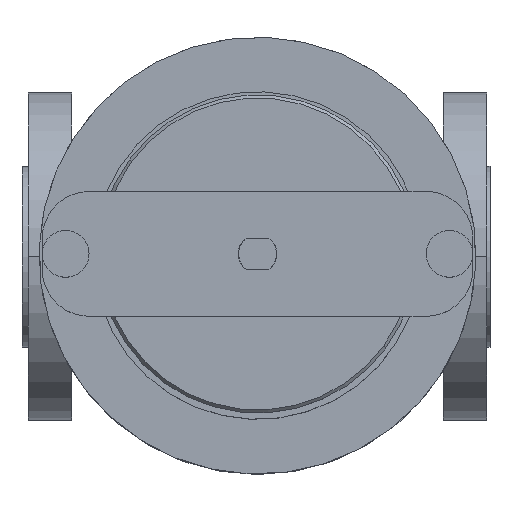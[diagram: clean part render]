
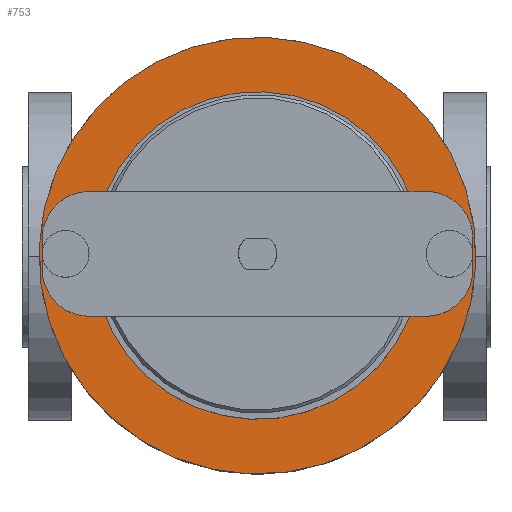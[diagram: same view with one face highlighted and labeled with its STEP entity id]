
A CAD part, top view. The second image highlights one B-rep face of the part: STEP entity #753.
In plain terms, the highlighted planar face has unit normal (0, 0, 1).
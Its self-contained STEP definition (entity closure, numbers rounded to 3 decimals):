
#29 = CIRCLE ( 'NONE', #7971, 7.5 ) ;
#59 = DIRECTION ( 'NONE',  ( 0., 0., -1. ) ) ;
#202 = AXIS2_PLACEMENT_3D ( 'NONE', #2127, #1296, #7878 ) ;
#411 = DIRECTION ( 'NONE',  ( 0., 0., -1. ) ) ;
#456 = ORIENTED_EDGE ( 'NONE', *, *, #4206, .F. ) ;
#753 = ADVANCED_FACE ( 'NONE', ( #9051, #7398, #4041, #5035 ), #3166, .F. ) ;
#764 = VERTEX_POINT ( 'NONE', #7560 ) ;
#1160 = DIRECTION ( 'NONE',  ( 0., 0., 1. ) ) ;
#1296 = DIRECTION ( 'NONE',  ( 0., 0., 1. ) ) ;
#1354 = CARTESIAN_POINT ( 'NONE',  ( 18.328, 11.593, 146.08 ) ) ;
#1477 = CIRCLE ( 'NONE', #2006, 7.5 ) ;
#1832 = DIRECTION ( 'NONE',  ( 0., 0., -1. ) ) ;
#2006 = AXIS2_PLACEMENT_3D ( 'NONE', #10112, #1832, #6141 ) ;
#2010 = AXIS2_PLACEMENT_3D ( 'NONE', #2560, #59, #6038 ) ;
#2029 = DIRECTION ( 'NONE',  ( 0., 0., 1. ) ) ;
#2127 = CARTESIAN_POINT ( 'NONE',  ( 18.328, 11.593, 146.08 ) ) ;
#2432 = EDGE_LOOP ( 'NONE', ( #7368, #456 ) ) ;
#2538 = ORIENTED_EDGE ( 'NONE', *, *, #7974, .F. ) ;
#2560 = CARTESIAN_POINT ( 'NONE',  ( 18.328, 11.593, 146.08 ) ) ;
#2659 = EDGE_LOOP ( 'NONE', ( #7259, #2936 ) ) ;
#2936 = ORIENTED_EDGE ( 'NONE', *, *, #9110, .T. ) ;
#2999 = ORIENTED_EDGE ( 'NONE', *, *, #8052, .F. ) ;
#3166 = PLANE ( 'NONE',  #5189 ) ;
#3181 = EDGE_CURVE ( 'NONE', #8870, #3436, #10230, .T. ) ;
#3436 = VERTEX_POINT ( 'NONE', #8982 ) ;
#3533 = AXIS2_PLACEMENT_3D ( 'NONE', #3601, #1160, #7850 ) ;
#3601 = CARTESIAN_POINT ( 'NONE',  ( -43.172, 11.593, 146.08 ) ) ;
#3967 = CIRCLE ( 'NONE', #5716, 7.5 ) ;
#4041 = FACE_BOUND ( 'NONE', #10674, .T. ) ;
#4122 = VERTEX_POINT ( 'NONE', #6853 ) ;
#4171 = DIRECTION ( 'NONE',  ( 0., 0., 1. ) ) ;
#4206 = EDGE_CURVE ( 'NONE', #764, #8852, #5293, .T. ) ;
#4447 = ORIENTED_EDGE ( 'NONE', *, *, #3181, .F. ) ;
#4568 = DIRECTION ( 'NONE',  ( -1., 0., 0. ) ) ;
#4578 = AXIS2_PLACEMENT_3D ( 'NONE', #1354, #2029, #5403 ) ;
#4628 = CARTESIAN_POINT ( 'NONE',  ( 18.328, 11.593, 146.08 ) ) ;
#4953 = VERTEX_POINT ( 'NONE', #5833 ) ;
#5035 = FACE_BOUND ( 'NONE', #2659, .T. ) ;
#5189 = AXIS2_PLACEMENT_3D ( 'NONE', #6524, #6581, #7516 ) ;
#5293 = CIRCLE ( 'NONE', #3533, 7.5 ) ;
#5403 = DIRECTION ( 'NONE',  ( 0., 1., 0. ) ) ;
#5650 = DIRECTION ( 'NONE',  ( 0., 1., 0. ) ) ;
#5716 = AXIS2_PLACEMENT_3D ( 'NONE', #8350, #4171, #5650 ) ;
#5771 = VERTEX_POINT ( 'NONE', #7985 ) ;
#5811 = VERTEX_POINT ( 'NONE', #6218 ) ;
#5833 = CARTESIAN_POINT ( 'NONE',  ( 79.828, 19.093, 146.08 ) ) ;
#5873 = EDGE_CURVE ( 'NONE', #4953, #4122, #29, .T. ) ;
#6038 = DIRECTION ( 'NONE',  ( -1., 0., 0. ) ) ;
#6141 = DIRECTION ( 'NONE',  ( 0., 1., 0. ) ) ;
#6218 = CARTESIAN_POINT ( 'NONE',  ( -8.46, -53.079, 146.08 ) ) ;
#6524 = CARTESIAN_POINT ( 'NONE',  ( 18.328, 11.593, 146.08 ) ) ;
#6581 = DIRECTION ( 'NONE',  ( 0., 0., -1. ) ) ;
#6606 = CIRCLE ( 'NONE', #2010, 70. ) ;
#6853 = CARTESIAN_POINT ( 'NONE',  ( 79.828, 4.093, 146.08 ) ) ;
#7259 = ORIENTED_EDGE ( 'NONE', *, *, #5873, .T. ) ;
#7368 = ORIENTED_EDGE ( 'NONE', *, *, #8780, .F. ) ;
#7398 = FACE_OUTER_BOUND ( 'NONE', #8517, .T. ) ;
#7430 = CIRCLE ( 'NONE', #202, 52.5 ) ;
#7516 = DIRECTION ( 'NONE',  ( -1., 0., 0. ) ) ;
#7560 = CARTESIAN_POINT ( 'NONE',  ( -43.172, 4.093, 146.08 ) ) ;
#7850 = DIRECTION ( 'NONE',  ( 0., 1., 0. ) ) ;
#7873 = DIRECTION ( 'NONE',  ( 0., 1., 0. ) ) ;
#7878 = DIRECTION ( 'NONE',  ( 0., 1., 0. ) ) ;
#7971 = AXIS2_PLACEMENT_3D ( 'NONE', #8793, #10468, #7873 ) ;
#7974 = EDGE_CURVE ( 'NONE', #3436, #8870, #7430, .T. ) ;
#7985 = CARTESIAN_POINT ( 'NONE',  ( 45.116, 76.264, 146.08 ) ) ;
#8052 = EDGE_CURVE ( 'NONE', #5811, #5771, #9192, .T. ) ;
#8240 = CARTESIAN_POINT ( 'NONE',  ( 38.419, 60.096, 146.08 ) ) ;
#8350 = CARTESIAN_POINT ( 'NONE',  ( -43.172, 11.593, 146.08 ) ) ;
#8517 = EDGE_LOOP ( 'NONE', ( #2999, #9914 ) ) ;
#8780 = EDGE_CURVE ( 'NONE', #8852, #764, #3967, .T. ) ;
#8793 = CARTESIAN_POINT ( 'NONE',  ( 79.828, 11.593, 146.08 ) ) ;
#8852 = VERTEX_POINT ( 'NONE', #10726 ) ;
#8870 = VERTEX_POINT ( 'NONE', #8240 ) ;
#8982 = CARTESIAN_POINT ( 'NONE',  ( -1.763, -36.911, 146.08 ) ) ;
#9051 = FACE_BOUND ( 'NONE', #2432, .T. ) ;
#9110 = EDGE_CURVE ( 'NONE', #4122, #4953, #1477, .T. ) ;
#9192 = CIRCLE ( 'NONE', #10260, 70. ) ;
#9914 = ORIENTED_EDGE ( 'NONE', *, *, #10316, .F. ) ;
#10112 = CARTESIAN_POINT ( 'NONE',  ( 79.828, 11.593, 146.08 ) ) ;
#10230 = CIRCLE ( 'NONE', #4578, 52.5 ) ;
#10260 = AXIS2_PLACEMENT_3D ( 'NONE', #4628, #411, #4568 ) ;
#10316 = EDGE_CURVE ( 'NONE', #5771, #5811, #6606, .T. ) ;
#10468 = DIRECTION ( 'NONE',  ( 0., 0., -1. ) ) ;
#10674 = EDGE_LOOP ( 'NONE', ( #4447, #2538 ) ) ;
#10726 = CARTESIAN_POINT ( 'NONE',  ( -43.172, 19.093, 146.08 ) ) ;
